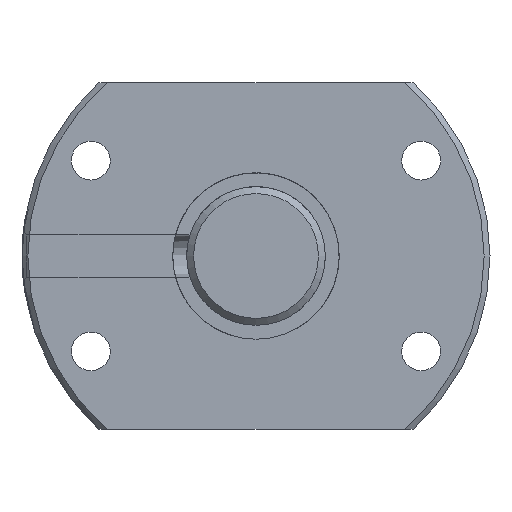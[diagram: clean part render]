
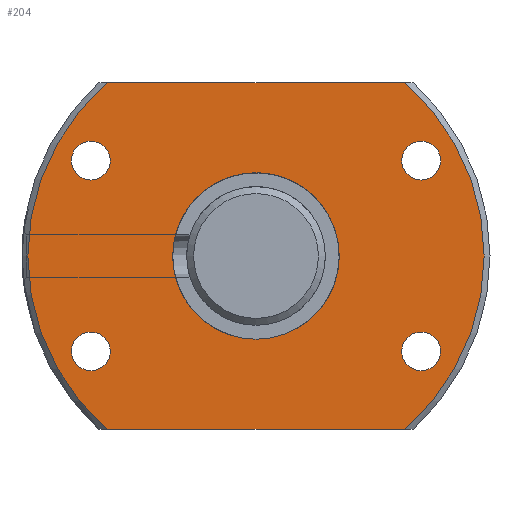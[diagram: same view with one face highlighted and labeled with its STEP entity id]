
A CAD part, left-side view. The second image highlights one B-rep face of the part: STEP entity #204.
In plain terms, the highlighted planar face has unit normal (-1, 0, 0).
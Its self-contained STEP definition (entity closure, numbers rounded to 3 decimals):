
#204 = ADVANCED_FACE( '', ( #311, #312, #313, #314, #315, #316 ), #317, .T. );
#311 = FACE_BOUND( '', #427, .T. );
#312 = FACE_OUTER_BOUND( '', #428, .T. );
#313 = FACE_BOUND( '', #429, .T. );
#314 = FACE_BOUND( '', #430, .T. );
#315 = FACE_BOUND( '', #431, .T. );
#316 = FACE_BOUND( '', #432, .T. );
#317 = PLANE( '', #433 );
#427 = EDGE_LOOP( '', ( #642 ) );
#428 = EDGE_LOOP( '', ( #643, #644, #645, #646 ) );
#429 = EDGE_LOOP( '', ( #647 ) );
#430 = EDGE_LOOP( '', ( #648 ) );
#431 = EDGE_LOOP( '', ( #649 ) );
#432 = EDGE_LOOP( '', ( #650 ) );
#433 = AXIS2_PLACEMENT_3D( '', #651, #652, #653 );
#642 = ORIENTED_EDGE( '', *, *, #718, .T. );
#643 = ORIENTED_EDGE( '', *, *, #738, .F. );
#644 = ORIENTED_EDGE( '', *, *, #703, .F. );
#645 = ORIENTED_EDGE( '', *, *, #709, .F. );
#646 = ORIENTED_EDGE( '', *, *, #739, .F. );
#647 = ORIENTED_EDGE( '', *, *, #695, .T. );
#648 = ORIENTED_EDGE( '', *, *, #697, .T. );
#649 = ORIENTED_EDGE( '', *, *, #699, .T. );
#650 = ORIENTED_EDGE( '', *, *, #701, .T. );
#651 = CARTESIAN_POINT( '', ( 0., 26.325, 0. ) );
#652 = DIRECTION( '', ( -1., 0., 0. ) );
#653 = DIRECTION( '', ( 0., 0., 1. ) );
#695 = EDGE_CURVE( '', #771, #771, #772, .T. );
#697 = EDGE_CURVE( '', #775, #775, #776, .T. );
#699 = EDGE_CURVE( '', #779, #779, #780, .T. );
#701 = EDGE_CURVE( '', #783, #783, #784, .T. );
#703 = EDGE_CURVE( '', #785, #788, #789, .T. );
#709 = EDGE_CURVE( '', #798, #785, #800, .T. );
#718 = EDGE_CURVE( '', #815, #815, #816, .T. );
#738 = EDGE_CURVE( '', #788, #849, #850, .T. );
#739 = EDGE_CURVE( '', #849, #798, #851, .T. );
#771 = VERTEX_POINT( '', #944 );
#772 = CIRCLE( '', #945, 2.25 );
#775 = VERTEX_POINT( '', #948 );
#776 = CIRCLE( '', #949, 2.25 );
#779 = VERTEX_POINT( '', #952 );
#780 = CIRCLE( '', #953, 2.25 );
#783 = VERTEX_POINT( '', #956 );
#784 = CIRCLE( '', #957, 2.25 );
#785 = VERTEX_POINT( '', #958 );
#788 = VERTEX_POINT( '', #964 );
#789 = CIRCLE( '', #965, 26.325 );
#798 = VERTEX_POINT( '', #981 );
#800 = LINE( '', #986, #987 );
#815 = VERTEX_POINT( '', #1039 );
#816 = CIRCLE( '', #1040, 9.6 );
#849 = VERTEX_POINT( '', #1110 );
#850 = LINE( '', #1111, #1112 );
#851 = CIRCLE( '', #1113, 26.325 );
#944 = CARTESIAN_POINT( '', ( 0., 19.053, -13.25 ) );
#945 = AXIS2_PLACEMENT_3D( '', #1160, #1161, #1162 );
#948 = CARTESIAN_POINT( '', ( 0., -19.053, -13.25 ) );
#949 = AXIS2_PLACEMENT_3D( '', #1166, #1167, #1168 );
#952 = CARTESIAN_POINT( '', ( 0., -19.053, 8.75 ) );
#953 = AXIS2_PLACEMENT_3D( '', #1172, #1173, #1174 );
#956 = CARTESIAN_POINT( '', ( 0., 19.053, 8.75 ) );
#957 = AXIS2_PLACEMENT_3D( '', #1178, #1179, #1180 );
#958 = CARTESIAN_POINT( '', ( 0., 17.117, -20. ) );
#964 = CARTESIAN_POINT( '', ( 0., 17.117, 20. ) );
#965 = AXIS2_PLACEMENT_3D( '', #1181, #1182, #1183 );
#981 = CARTESIAN_POINT( '', ( 0., -17.117, -20. ) );
#986 = CARTESIAN_POINT( '', ( 0., -27.1, -20. ) );
#987 = VECTOR( '', #1188, 1000. );
#1039 = CARTESIAN_POINT( '', ( 0., 0., -9.6 ) );
#1040 = AXIS2_PLACEMENT_3D( '', #1200, #1201, #1202 );
#1110 = CARTESIAN_POINT( '', ( 0., -17.117, 20. ) );
#1111 = CARTESIAN_POINT( '', ( 0., 27.1, 20. ) );
#1112 = VECTOR( '', #1244, 1000. );
#1113 = AXIS2_PLACEMENT_3D( '', #1245, #1246, #1247 );
#1160 = CARTESIAN_POINT( '', ( 0., 19.053, -11. ) );
#1161 = DIRECTION( '', ( 1., 0., 0. ) );
#1162 = DIRECTION( '', ( 0., 0., -1. ) );
#1166 = CARTESIAN_POINT( '', ( 0., -19.053, -11. ) );
#1167 = DIRECTION( '', ( 1., 0., 0. ) );
#1168 = DIRECTION( '', ( 0., 0., -1. ) );
#1172 = CARTESIAN_POINT( '', ( 0., -19.053, 11. ) );
#1173 = DIRECTION( '', ( 1., 0., 0. ) );
#1174 = DIRECTION( '', ( 0., 0., -1. ) );
#1178 = CARTESIAN_POINT( '', ( 0., 19.053, 11. ) );
#1179 = DIRECTION( '', ( 1., 0., 0. ) );
#1180 = DIRECTION( '', ( 0., 0., -1. ) );
#1181 = CARTESIAN_POINT( '', ( 0., 0., 0. ) );
#1182 = DIRECTION( '', ( 1., 0., 0. ) );
#1183 = DIRECTION( '', ( 0., 0., -1. ) );
#1188 = DIRECTION( '', ( 0., 1., 0. ) );
#1200 = CARTESIAN_POINT( '', ( 0., 0., 0. ) );
#1201 = DIRECTION( '', ( 1., 0., 0. ) );
#1202 = DIRECTION( '', ( 0., 0., -1. ) );
#1244 = DIRECTION( '', ( 0., -1., 0. ) );
#1245 = CARTESIAN_POINT( '', ( 0., 0., 0. ) );
#1246 = DIRECTION( '', ( 1., 0., 0. ) );
#1247 = DIRECTION( '', ( 0., 0., -1. ) );
